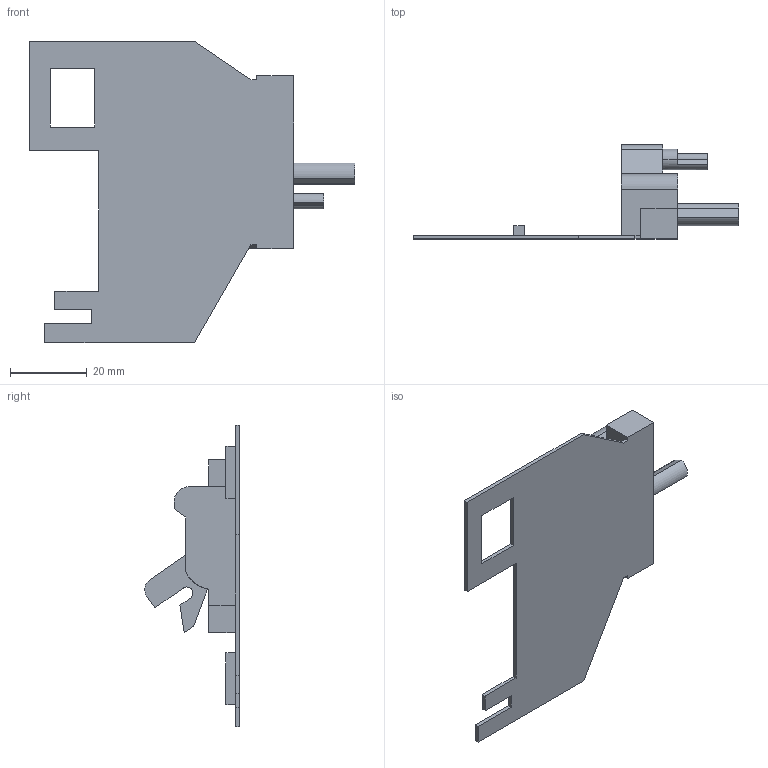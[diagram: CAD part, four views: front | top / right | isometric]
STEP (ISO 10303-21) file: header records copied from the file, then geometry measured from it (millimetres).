
FILE_DESCRIPTION (( 'STEP AP214' ), '1' );
FILE_NAME ('Synchronisationseinheit_DynaPro-Tipmatic_Rechts.step', '2013-01-30T15:07:22', ( 'Grass' ), ( '' ), 'SwSTEP 2.0', 'SolidWorks 2012', '' );
FILE_SCHEMA (( 'AUTOMOTIVE_DESIGN' ));
Length unit declared in the file: millimetre
Products named in the file (1): Synchronisationseinheit_DynaPro-Tipmatic_Rechts
Bounding box: 84.7 x 24.65 x 78.55 mm (x, y, z)
Volume: 12486.1 mm3; surface area: 10717.1 mm2
Topology: 1 solids, 1 shells, 72 faces, 198 edges, 132 vertices
Faces by surface type: plane 60, cylinder 12
Entity records: 2308 total; most frequent: CARTESIAN_POINT 403, ORIENTED_EDGE 396, DIRECTION 372, EDGE_CURVE 198, VECTOR 170, LINE 170, VERTEX_POINT 132, AXIS2_PLACEMENT_3D 101
